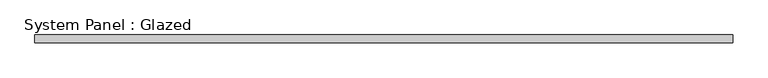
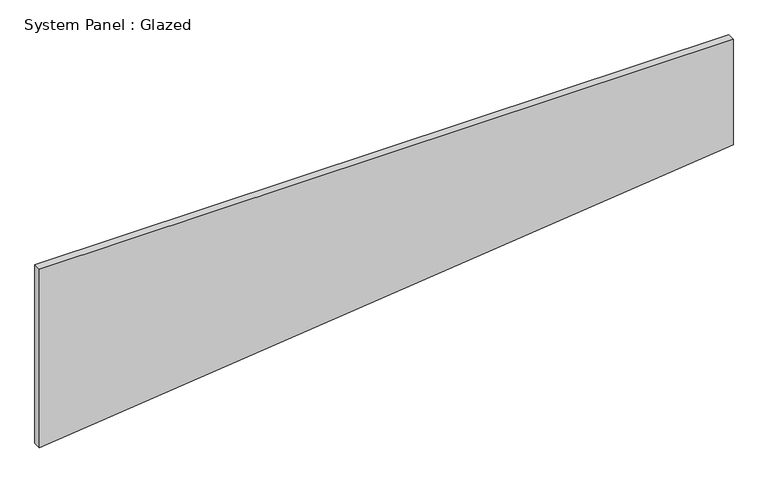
"""IFC4 building model written with IfcOpenShell, lengths in millimetres: plate geometry, System Panel : Glazed."""

from ifc_helpers import new_model, si_unit, frame, origin, place, context, project, spatial, polyline, outline, extrude, source, transform, mapped, element, save


def system_panel_glazed_b09d7682(model_context):
    return source(origin(), model_context, "Body", "SweptSolid", [
        extrude(outline(polyline([(0.0, -1122.380364), (250.3427871, 1122.380364), (611.5687002, 1122.380364), (611.5687002, -1122.380364), (0.0, -1122.380364)])), frame((0.0, 19.05, 0.0), z_axis=(0.0, 1.0, 0.0), x_axis=(0.0, 0.0, 1.0)), (0.0, 0.0, 1.0), 25.4),
    ])


if __name__ == "__main__":
    model = new_model("IFC4")
    model_context = context("Model", 3, world=origin())
    ifc_project = project(units=[si_unit("LENGTHUNIT", "METRE", prefix="MILLI")], contexts=[model_context])
    site = spatial("IfcSite", under=ifc_project)
    building = spatial("IfcBuilding", under=site)
    placement = place(None, origin())
    system_panel_glazed_shape = system_panel_glazed_b09d7682(model_context)
    element("IfcPlate", 1, ObjectType="System Panel : Glazed", at=placement, inside=building, context=model_context, shape_type="MappedRepresentation", body=[
        mapped(system_panel_glazed_shape, transform((0.0, 0.0, 0.0), x_axis=(1.0, 0.0, 0.0), y_axis=(0.0, 1.0, 0.0), z_axis=(0.0, 0.0, 1.0))),
    ])
    save(model, "model.ifc")
